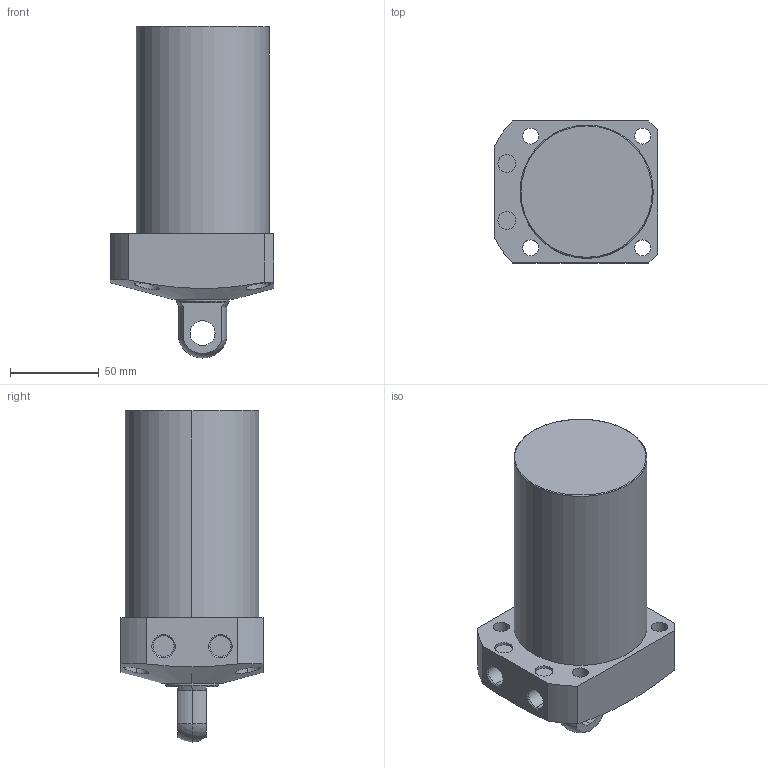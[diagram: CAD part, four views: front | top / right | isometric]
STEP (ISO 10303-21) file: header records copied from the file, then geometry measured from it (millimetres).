
FILE_DESCRIPTION (( 'STEP AP203' ), '1' );
FILE_NAME ('CLL-075CP-080.STEP', '2019-12-24T01:27:17', ( '' ), ( '' ), 'SwSTEP 2.0', 'SolidWorks 2015', '' );
FILE_SCHEMA (( 'CONFIG_CONTROL_DESIGN' ));
Length unit declared in the file: millimetre
Products named in the file (1): CLL-075CP-080
Bounding box: 92 x 80 x 187 mm (x, y, z)
Volume: 744332 mm3; surface area: 59471.1 mm2
Topology: 1 solids, 1 shells, 68 faces, 159 edges, 103 vertices
Faces by surface type: cylinder 35, plane 21, cone 8, sphere 2, torus 2
Entity records: 2459 total; most frequent: CARTESIAN_POINT 762, DIRECTION 357, ORIENTED_EDGE 318, EDGE_CURVE 159, AXIS2_PLACEMENT_3D 149, VERTEX_POINT 103, EDGE_LOOP 88, CIRCLE 80
